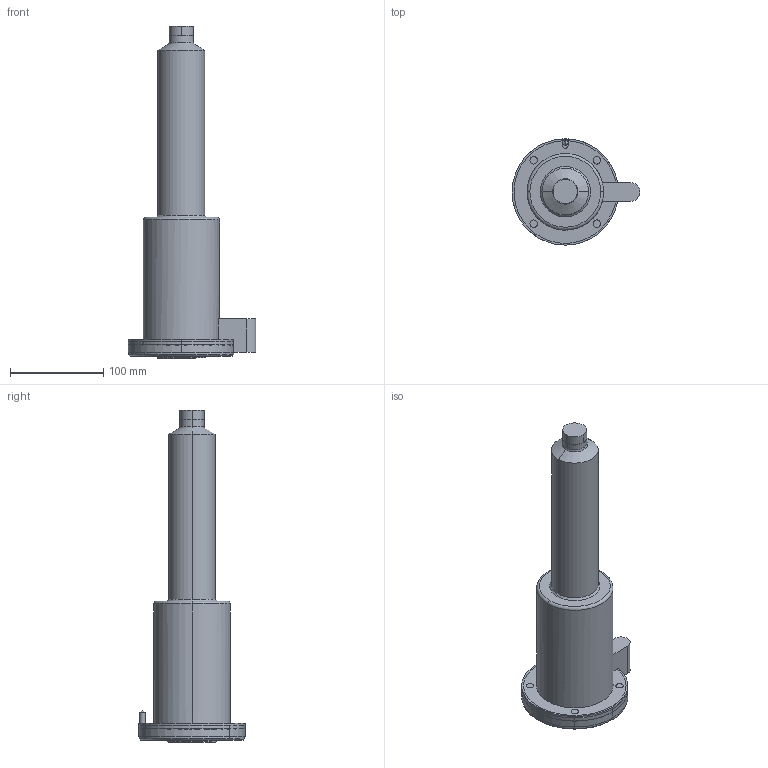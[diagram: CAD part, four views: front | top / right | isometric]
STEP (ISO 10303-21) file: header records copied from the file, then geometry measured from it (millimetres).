
FILE_DESCRIPTION (( 'STEP AP214' ), '1' );
FILE_NAME ('SR20_CLOSED_350_BAND.STEP', '2009-05-07T15:53:44', ( 'Synventive Molding Solutions' ), ( 'Synventive Molding Solutions' ), 'SwSTEP 2.0', 'SolidWorks 2008', '' );
FILE_SCHEMA (( 'AUTOMOTIVE_DESIGN' ));
Length unit declared in the file: millimetre
Products named in the file (1): SR20_CLOSED_350_BAND
Bounding box: 137 x 114 x 356 mm (x, y, z)
Volume: 1981009.5 mm3; surface area: 187107.2 mm2
Topology: 4 solids, 4 shells, 411 faces, 1067 edges, 675 vertices
Faces by surface type: cylinder 171, plane 156, torus 43, cone 33, sphere 4, bspline 4
Entity records: 18203 total; most frequent: CARTESIAN_POINT 3390, DIRECTION 2220, ORIENTED_EDGE 2122, EDGE_CURVE 1061, AXIS2_PLACEMENT_3D 853, VERTEX_POINT 675, VECTOR 514, LINE 514
